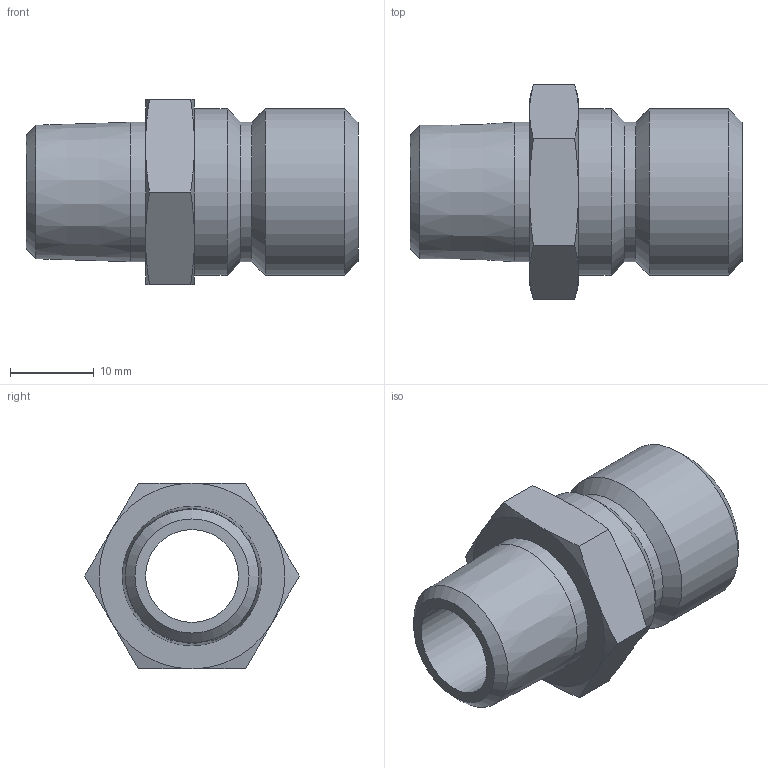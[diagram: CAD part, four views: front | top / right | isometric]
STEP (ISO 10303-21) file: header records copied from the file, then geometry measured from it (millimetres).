
FILE_DESCRIPTION(/* description */ ('STEP AP214'),/* implementation_level */ '2;1');
FILE_NAME(/* name */ 'JP-553',/* time_stamp */ '2024-12-19T08:36:07+01:00',/* author */ ('License CC BY-ND 4.0'),/* organization */ ('CADENAS'),/* preprocessor_version */ 'ST-DEVELOPER v19.3',/* originating_system */ 'PARTsolutions',/* authorisation */ ' ');
FILE_SCHEMA (('AUTOMOTIVE_DESIGN {1 0 10303 214 3 1 1}'));
Length unit declared in the file: inch
Products named in the file (1): JP-553
Bounding box: 39.7 x 25.66 x 22.23 mm (x, y, z)
Volume: 7339.3 mm3; surface area: 4361.4 mm2
Topology: 1 solids, 1 shells, 32 faces, 65 edges, 37 vertices
Faces by surface type: cone 17, plane 10, cylinder 5
Full cylindrical faces by diameter (mm): 11.1 x1, 16.675 x1, 16.706 x1, 19.888 x2
Entity records: 832 total; most frequent: CARTESIAN_POINT 197, DIRECTION 122, ORIENTED_EDGE 110, AXIS2_PLACEMENT_3D 58, EDGE_CURVE 55, EDGE_LOOP 46, FACE_BOUND 46, VERTEX_POINT 37
